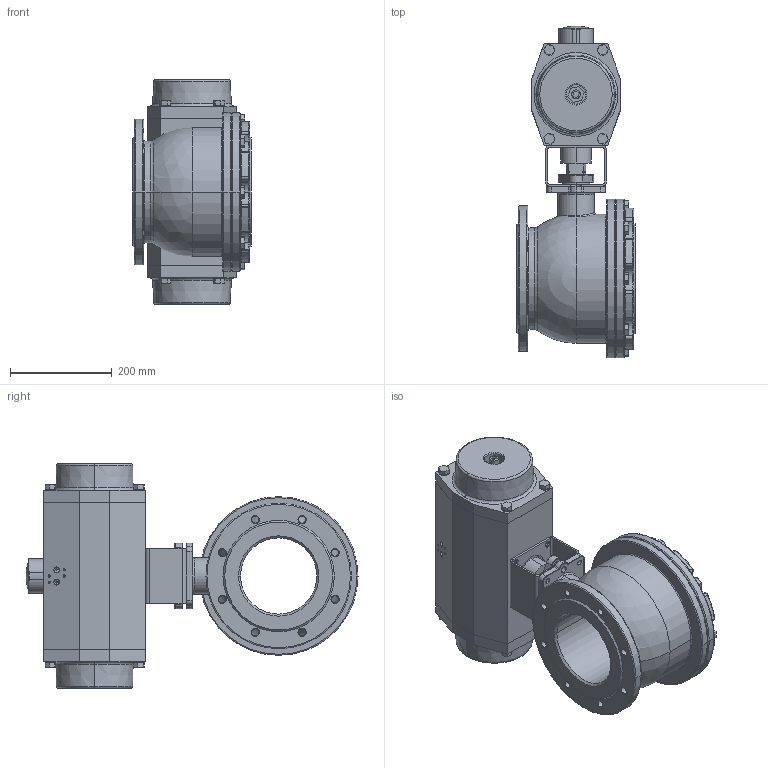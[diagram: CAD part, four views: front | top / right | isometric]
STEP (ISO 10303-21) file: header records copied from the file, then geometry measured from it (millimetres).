
FILE_DESCRIPTION (( 'STEP AP214' ), '1' );
FILE_NAME ('S15F DN150 + AP6 90deg.STEP', '2012-04-24T09:05:03', ( 'Jan' ), ( '' ), 'SwSTEP 2.0', 'SolidWorks 2011', '' );
FILE_SCHEMA (( 'AUTOMOTIVE_DESIGN' ));
Length unit declared in the file: millimetre
Products named in the file (5): YB12080F12F12-4; AP6_Default<As Machined>; S15F KK DN150 PN16; S15F DN150 + AP6 90deg; YA2726D6053K80
Assembly tree (4 placements, depth 2):
  S15F DN150 + AP6 90deg
    YA2726D6053K80
    AP6_Default<As Machined>
    S15F KK DN150 PN16
    YB12080F12F12-4
Bounding box: 234 x 652.9 x 442 mm (x, y, z)
Volume: 21364629.2 mm3; surface area: 1065134.6 mm2
Topology: 15 solids, 15 shells, 825 faces, 1975 edges, 1191 vertices
Faces by surface type: plane 319, cylinder 264, torus 143, cone 94, sphere 4, bspline 1
Entity records: 25850 total; most frequent: DIRECTION 4482, CARTESIAN_POINT 4254, ORIENTED_EDGE 3838, EDGE_CURVE 1919, AXIS2_PLACEMENT_3D 1735, VERTEX_POINT 1189, VECTOR 1012, LINE 1012
